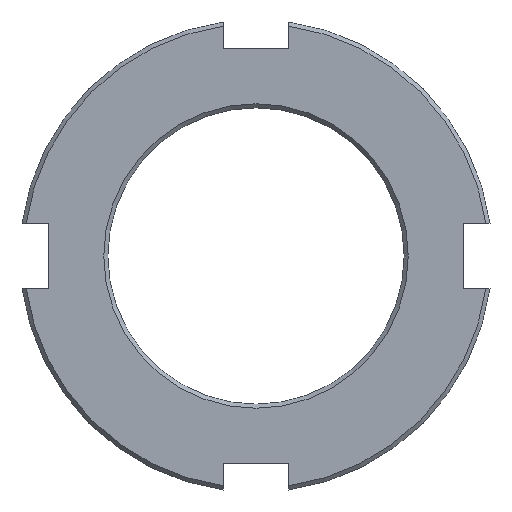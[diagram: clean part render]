
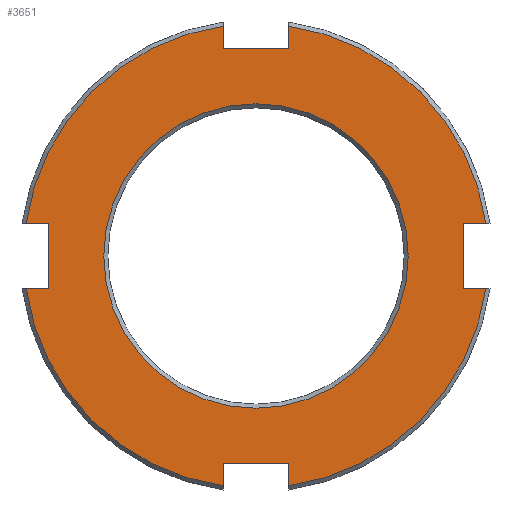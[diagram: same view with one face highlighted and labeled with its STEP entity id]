
A CAD part, front view. The second image highlights one B-rep face of the part: STEP entity #3651.
In plain terms, the highlighted planar face has unit normal (0, -1, 0).
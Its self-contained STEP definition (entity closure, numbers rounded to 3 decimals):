
#49=CIRCLE('',#3798,18.688);
#53=CIRCLE('',#3804,28.5);
#54=CIRCLE('',#3805,28.5);
#55=CIRCLE('',#3806,28.5);
#56=CIRCLE('',#3807,28.5);
#87=FACE_BOUND('',#582,.T.);
#184=PLANE('',#3803);
#367=FACE_OUTER_BOUND('',#581,.T.);
#581=EDGE_LOOP('',(#3254,#3255,#3256,#3257,#3258,#3259,#3260,#3261,#3262,
#3263,#3264,#3265,#3266,#3267,#3268,#3269));
#582=EDGE_LOOP('',(#3270));
#922=LINE('',#6362,#1274);
#923=LINE('',#6364,#1275);
#924=LINE('',#6366,#1276);
#925=LINE('',#6370,#1277);
#926=LINE('',#6372,#1278);
#927=LINE('',#6374,#1279);
#928=LINE('',#6378,#1280);
#929=LINE('',#6380,#1281);
#930=LINE('',#6382,#1282);
#931=LINE('',#6386,#1283);
#932=LINE('',#6388,#1284);
#933=LINE('',#6389,#1285);
#1274=VECTOR('',#4371,10.);
#1275=VECTOR('',#4372,10.);
#1276=VECTOR('',#4373,10.);
#1277=VECTOR('',#4376,10.);
#1278=VECTOR('',#4377,10.);
#1279=VECTOR('',#4378,10.);
#1280=VECTOR('',#4381,10.);
#1281=VECTOR('',#4382,10.);
#1282=VECTOR('',#4383,10.);
#1283=VECTOR('',#4386,10.);
#1284=VECTOR('',#4387,10.);
#1285=VECTOR('',#4388,10.);
#1760=VERTEX_POINT('',#6346);
#1764=VERTEX_POINT('',#6358);
#1765=VERTEX_POINT('',#6359);
#1766=VERTEX_POINT('',#6361);
#1767=VERTEX_POINT('',#6363);
#1768=VERTEX_POINT('',#6365);
#1769=VERTEX_POINT('',#6367);
#1770=VERTEX_POINT('',#6369);
#1771=VERTEX_POINT('',#6371);
#1772=VERTEX_POINT('',#6373);
#1773=VERTEX_POINT('',#6375);
#1774=VERTEX_POINT('',#6377);
#1775=VERTEX_POINT('',#6379);
#1776=VERTEX_POINT('',#6381);
#1777=VERTEX_POINT('',#6383);
#1778=VERTEX_POINT('',#6385);
#1779=VERTEX_POINT('',#6387);
#2265=EDGE_CURVE('',#1760,#1760,#49,.T.);
#2271=EDGE_CURVE('',#1764,#1765,#53,.T.);
#2272=EDGE_CURVE('',#1764,#1766,#922,.T.);
#2273=EDGE_CURVE('',#1766,#1767,#923,.T.);
#2274=EDGE_CURVE('',#1767,#1768,#924,.T.);
#2275=EDGE_CURVE('',#1769,#1768,#54,.T.);
#2276=EDGE_CURVE('',#1769,#1770,#925,.T.);
#2277=EDGE_CURVE('',#1770,#1771,#926,.T.);
#2278=EDGE_CURVE('',#1771,#1772,#927,.T.);
#2279=EDGE_CURVE('',#1773,#1772,#55,.T.);
#2280=EDGE_CURVE('',#1773,#1774,#928,.T.);
#2281=EDGE_CURVE('',#1774,#1775,#929,.T.);
#2282=EDGE_CURVE('',#1775,#1776,#930,.T.);
#2283=EDGE_CURVE('',#1777,#1776,#56,.T.);
#2284=EDGE_CURVE('',#1777,#1778,#931,.T.);
#2285=EDGE_CURVE('',#1778,#1779,#932,.T.);
#2286=EDGE_CURVE('',#1779,#1765,#933,.T.);
#3254=ORIENTED_EDGE('',*,*,#2271,.F.);
#3255=ORIENTED_EDGE('',*,*,#2272,.T.);
#3256=ORIENTED_EDGE('',*,*,#2273,.T.);
#3257=ORIENTED_EDGE('',*,*,#2274,.T.);
#3258=ORIENTED_EDGE('',*,*,#2275,.F.);
#3259=ORIENTED_EDGE('',*,*,#2276,.T.);
#3260=ORIENTED_EDGE('',*,*,#2277,.T.);
#3261=ORIENTED_EDGE('',*,*,#2278,.T.);
#3262=ORIENTED_EDGE('',*,*,#2279,.F.);
#3263=ORIENTED_EDGE('',*,*,#2280,.T.);
#3264=ORIENTED_EDGE('',*,*,#2281,.T.);
#3265=ORIENTED_EDGE('',*,*,#2282,.T.);
#3266=ORIENTED_EDGE('',*,*,#2283,.F.);
#3267=ORIENTED_EDGE('',*,*,#2284,.T.);
#3268=ORIENTED_EDGE('',*,*,#2285,.T.);
#3269=ORIENTED_EDGE('',*,*,#2286,.T.);
#3270=ORIENTED_EDGE('',*,*,#2265,.F.);
#3651=ADVANCED_FACE('',(#367,#87),#184,.F.);
#3798=AXIS2_PLACEMENT_3D('',#6347,#4355,#4356);
#3803=AXIS2_PLACEMENT_3D('',#6357,#4367,#4368);
#3804=AXIS2_PLACEMENT_3D('',#6360,#4369,#4370);
#3805=AXIS2_PLACEMENT_3D('',#6368,#4374,#4375);
#3806=AXIS2_PLACEMENT_3D('',#6376,#4379,#4380);
#3807=AXIS2_PLACEMENT_3D('',#6384,#4384,#4385);
#4355=DIRECTION('center_axis',(0.,-1.,0.));
#4356=DIRECTION('ref_axis',(1.,0.,0.));
#4367=DIRECTION('center_axis',(0.,1.,0.));
#4368=DIRECTION('ref_axis',(0.,0.,1.));
#4369=DIRECTION('center_axis',(0.,1.,0.));
#4370=DIRECTION('ref_axis',(0.99,0.,-0.138));
#4371=DIRECTION('',(-1.,0.,0.));
#4372=DIRECTION('',(0.,0.,1.));
#4373=DIRECTION('',(1.,0.,0.));
#4374=DIRECTION('center_axis',(0.,1.,0.));
#4375=DIRECTION('ref_axis',(0.138,0.,0.99));
#4376=DIRECTION('',(0.,0.,-1.));
#4377=DIRECTION('',(-1.,0.,0.));
#4378=DIRECTION('',(0.,0.,1.));
#4379=DIRECTION('center_axis',(0.,1.,0.));
#4380=DIRECTION('ref_axis',(-0.99,0.,0.138));
#4381=DIRECTION('',(1.,0.,0.));
#4382=DIRECTION('',(0.,0.,-1.));
#4383=DIRECTION('',(-1.,0.,0.));
#4384=DIRECTION('center_axis',(0.,1.,0.));
#4385=DIRECTION('ref_axis',(-0.138,0.,-0.99));
#4386=DIRECTION('',(0.,0.,1.));
#4387=DIRECTION('',(1.,0.,0.));
#4388=DIRECTION('',(0.,0.,-1.));
#6346=CARTESIAN_POINT('',(-18.688,0.,0.));
#6347=CARTESIAN_POINT('Origin',(0.,0.,0.));
#6357=CARTESIAN_POINT('Origin',(0.,0.,0.));
#6358=CARTESIAN_POINT('',(28.218,0.,-4.));
#6359=CARTESIAN_POINT('',(4.,0.,-28.218));
#6360=CARTESIAN_POINT('Origin',(0.,0.,0.));
#6361=CARTESIAN_POINT('',(25.5,0.,-4.));
#6362=CARTESIAN_POINT('',(28.723,0.,-4.));
#6363=CARTESIAN_POINT('',(25.5,0.,4.));
#6364=CARTESIAN_POINT('',(25.5,0.,-4.));
#6365=CARTESIAN_POINT('',(28.218,0.,4.));
#6366=CARTESIAN_POINT('',(25.5,0.,4.));
#6367=CARTESIAN_POINT('',(4.,0.,28.218));
#6368=CARTESIAN_POINT('Origin',(0.,0.,0.));
#6369=CARTESIAN_POINT('',(4.,0.,25.5));
#6370=CARTESIAN_POINT('',(4.,0.,28.723));
#6371=CARTESIAN_POINT('',(-4.,0.,25.5));
#6372=CARTESIAN_POINT('',(4.,0.,25.5));
#6373=CARTESIAN_POINT('',(-4.,0.,28.218));
#6374=CARTESIAN_POINT('',(-4.,0.,25.5));
#6375=CARTESIAN_POINT('',(-28.218,0.,4.));
#6376=CARTESIAN_POINT('Origin',(0.,0.,0.));
#6377=CARTESIAN_POINT('',(-25.5,0.,4.));
#6378=CARTESIAN_POINT('',(-28.723,0.,4.));
#6379=CARTESIAN_POINT('',(-25.5,0.,-4.));
#6380=CARTESIAN_POINT('',(-25.5,0.,4.));
#6381=CARTESIAN_POINT('',(-28.218,0.,-4.));
#6382=CARTESIAN_POINT('',(-25.5,0.,-4.));
#6383=CARTESIAN_POINT('',(-4.,0.,-28.218));
#6384=CARTESIAN_POINT('Origin',(0.,0.,0.));
#6385=CARTESIAN_POINT('',(-4.,0.,-25.5));
#6386=CARTESIAN_POINT('',(-4.,0.,-28.723));
#6387=CARTESIAN_POINT('',(4.,0.,-25.5));
#6388=CARTESIAN_POINT('',(-4.,0.,-25.5));
#6389=CARTESIAN_POINT('',(4.,0.,-25.5));
